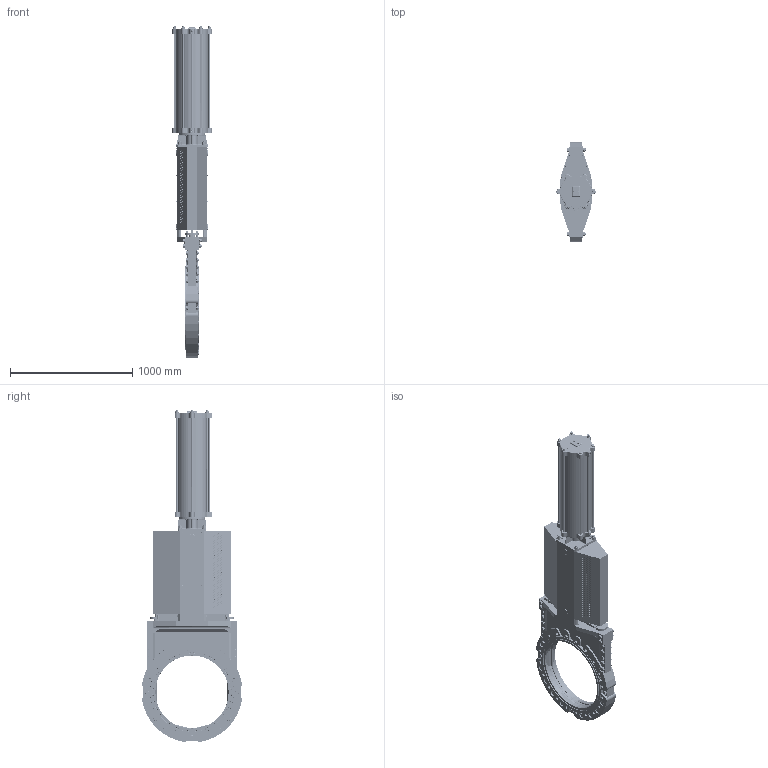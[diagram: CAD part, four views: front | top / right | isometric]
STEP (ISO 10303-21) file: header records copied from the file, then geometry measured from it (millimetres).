
FILE_DESCRIPTION(/* description */ ('','CAx-IF Rec.Pracs.---Representation and Presentation of Product Manufacturing Information (PMI)---4.0---2014-10-13'),/* implementation_level */ '2;1');
FILE_NAME(/* name */ 'F:\Emir\3D-block special\WB\WB14-WEL-DN600-PN10-FRSC250-630_Shrinkwrap_1.stp',/* time_stamp */ '2018-09-07T08:09:00+02:00',/* author */ ('emimus'),/* organization */ (''),/* preprocessor_version */ 'ST-DEVELOPER v17.2',/* originating_system */ 'Autodesk Inventor 2019',/* authorisation */ '');
FILE_SCHEMA (('AP242_MANAGED_MODEL_BASED_3D_ENGINEERING_MIM_LF { 1 0 10303 442 1 1 4 }'));
Products named in the file (1): WB14-WEL-DN600-PN10-FRSC250-630_Shrinkwrap_1
Bounding box: 322 x 816.52 x 2715.26 mm (x, y, z)
Volume: 67949364.2 mm3; surface area: 10021630.3 mm2
Topology: 5 solids, 5 shells, 4636 faces, 12137 edges, 7845 vertices
Faces by surface type: plane 2059, cylinder 1355, cone 600, torus 302, bspline 196, sphere 124
Full cylindrical faces by diameter (mm): 3.7 x16, 4 x2, 4.2 x16, 4.5 x4, 4.917 x7, 5 x2, 5.2 x4, 6 x4, 6.3 x2, 6.647 x4, 7.5 x4, 8.376 x4, 9.5 x2, 10 x4, 10.106 x2, 12 x20, 12.5 x6, 13 x8, 13.835 x4, 14 x7, 15 x1, 16 x12, 17 x14, 17.294 x4, 17.5 x6, 18 x1, 18.2 x4, 18.5 x2, 18.631 x2, 20 x39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
Entity records: 154413 total; most frequent: CARTESIAN_POINT 39470, DIRECTION 24534, ORIENTED_EDGE 24142, EDGE_CURVE 12071, AXIS2_PLACEMENT_3D 9702, VERTEX_POINT 7845, EDGE_LOOP 5572, LINE 5130
